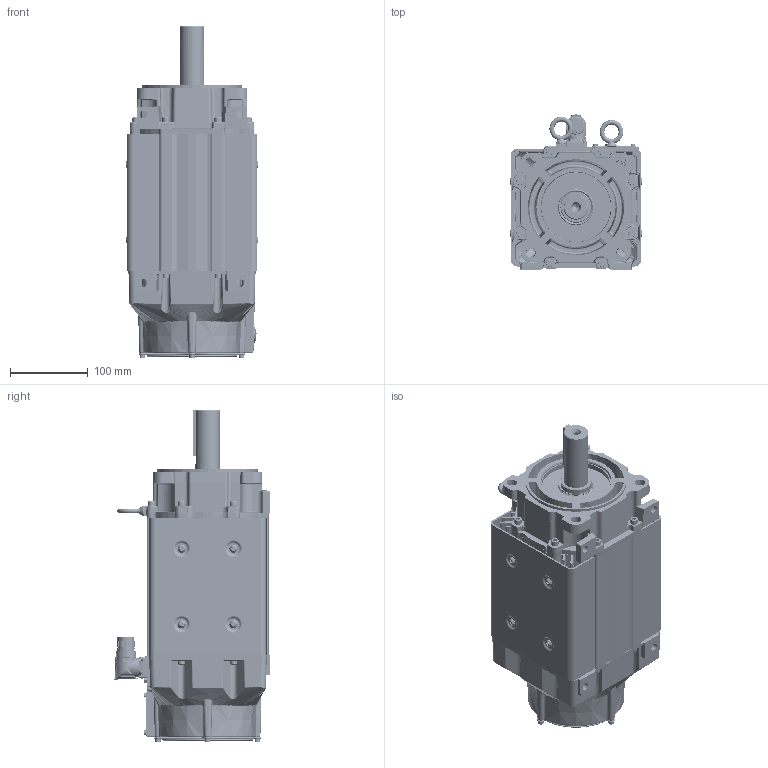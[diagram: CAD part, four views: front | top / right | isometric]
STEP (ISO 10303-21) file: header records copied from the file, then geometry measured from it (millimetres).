
FILE_DESCRIPTION((''),'2;1');
FILE_NAME('VPC-B1652D-QJ12FX_ASM','2016-09-26T',('SRGaddam'),('Rockwell Automation'),'PRO/ENGINEER BY PARAMETRIC TECHNOLOGY CORPORATION, 2012480','PRO/ENGINEER BY PARAMETRIC TECHNOLOGY CORPORATION, 2012480','');
FILE_SCHEMA(('CONFIG_CONTROL_DESIGN'));
Products named in the file (39): 10001392731_AF0; 10001392729_AF3; 10001392735_ASM; CH25X125; 10001406948; 0019-1060; 10001419793; 10001587021; 10001383815_AF59; 10001383705_AF59; 10001383837_ASM; 10001421128; 10001933608; 10001713557; 10001713565_ASM; 91290A148BR; 10001289776; CH4X050; 10001336508; 10001409703; 10001587458; 91290A115; 10001299929; 10001284567; 10001430805; 10001587431; 10000231113; 10001430839_ASM; 10001609981; 0002-5006; 10001586879; 10001393622; 0011-2066; 142413_923; PRT0001_923; 142413-1_923_ASM; 10000172464; M923_ASM; VPC-B1652D-QJ12FX_ASM
Assembly tree (75 placements, depth 4):
  VPC-B1652D-QJ12FX_ASM
    10001392735_ASM
      10001392731_AF0
      10001392729_AF3
    CH25X125  x8
    10001406948
    0019-1060
    10001419793  x2
    10001587021  x8
    10001383837_ASM
      10001383815_AF59
      10001383705_AF59
    10001430839_ASM
      10001421128
      10001713565_ASM
        10001933608
        10001713557
      91290A148BR  x9
      10001289776
      CH4X050  x2
      10001336508
      10001409703
      10001587458
      91290A115  x5
      10001299929
      10001284567
      10001430805
      10001587431
      10000231113
    10001609981
    0002-5006  x2
    10001586879  x6
    10001393622
    0011-2066
    M923_ASM
      142413-1_923_ASM
        142413_923
        PRT0001_923
      10000172464  x4
Bounding box: 170.91 x 199.8 x 427.68 mm (x, y, z)
Volume: 2727386 mm3; surface area: 1011526.1 mm2
Topology: 77 solids, 77 shells, 5941 faces, 15317 edges, 9787 vertices
Faces by surface type: plane 1865, cylinder 1720, bspline 979, cone 751, torus 500, sphere 124, extrusion 2
Entity records: 212206 total; most frequent: CARTESIAN_POINT 94158, ORIENTED_EDGE 25944, DIRECTION 22759, EDGE_CURVE 12972, VERTEX_POINT 8440, AXIS2_PLACEMENT_3D 8431, VECTOR 5897, LINE 5895
